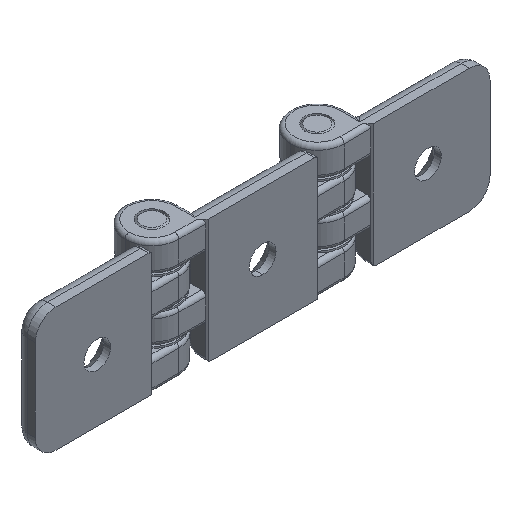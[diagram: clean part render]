
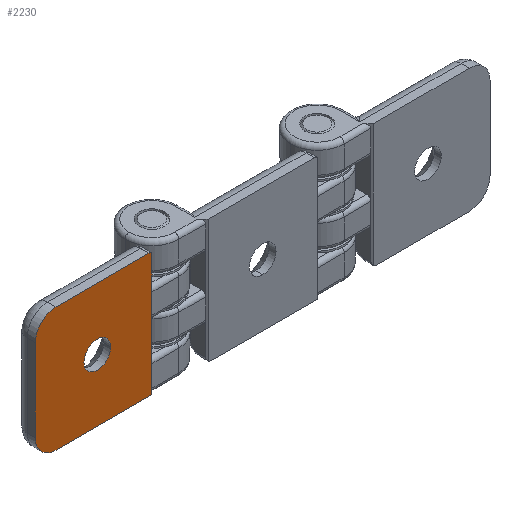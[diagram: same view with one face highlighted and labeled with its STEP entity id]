
A CAD part, isometric view. The second image highlights one B-rep face of the part: STEP entity #2230.
In plain terms, the highlighted planar face has unit normal (0, -1, 0).
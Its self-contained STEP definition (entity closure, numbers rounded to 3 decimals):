
#326 = CIRCLE ( 'NONE', #1090, 3.25 ) ;
#380 = LINE ( 'NONE', #899, #383 ) ;
#383 = VECTOR ( 'NONE', #900, 1000. ) ;
#384 = LINE ( 'NONE', #903, #387 ) ;
#387 = VECTOR ( 'NONE', #905, 1000. ) ;
#426 = LINE ( 'NONE', #975, #436 ) ;
#436 = VECTOR ( 'NONE', #976, 1000. ) ;
#440 = VECTOR ( 'NONE', #1334, 1000. ) ;
#445 = CIRCLE ( 'NONE', #1115, 5. ) ;
#446 = CIRCLE ( 'NONE', #1112, 3.25 ) ;
#447 = CIRCLE ( 'NONE', #1114, 5. ) ;
#448 = CIRCLE ( 'NONE', #1113, 1. ) ;
#449 = LINE ( 'NONE', #1333, #440 ) ;
#634 = CARTESIAN_POINT ( 'NONE',  ( 30., -6.8, 0. ) ) ;
#635 = CARTESIAN_POINT ( 'NONE',  ( 23.25, -6.8, 15. ) ) ;
#640 = CARTESIAN_POINT ( 'NONE',  ( 16.75, -6.8, 15. ) ) ;
#817 = CARTESIAN_POINT ( 'NONE',  ( 20., -6.8, 15. ) ) ;
#818 = DIRECTION ( 'NONE',  ( 0., -1., 0. ) ) ;
#819 = DIRECTION ( 'NONE',  ( 1., 0., 0. ) ) ;
#899 = CARTESIAN_POINT ( 'NONE',  ( 6.8, -6.8, 30. ) ) ;
#900 = DIRECTION ( 'NONE',  ( 1., 0., 0. ) ) ;
#903 = CARTESIAN_POINT ( 'NONE',  ( 6.8, -6.8, 0. ) ) ;
#905 = DIRECTION ( 'NONE',  ( 1., 0., 0. ) ) ;
#975 = CARTESIAN_POINT ( 'NONE',  ( 6.8, -6.8, 30. ) ) ;
#976 = DIRECTION ( 'NONE',  ( 0., 0., -1. ) ) ;
#1019 = CARTESIAN_POINT ( 'NONE',  ( 7.5, -6.8, 0. ) ) ;
#1033 = CARTESIAN_POINT ( 'NONE',  ( 6.8, -6.8, 30. ) ) ;
#1034 = CARTESIAN_POINT ( 'NONE',  ( 30., -6.8, 30. ) ) ;
#1055 = CARTESIAN_POINT ( 'NONE',  ( 35., -6.8, 25. ) ) ;
#1059 = CARTESIAN_POINT ( 'NONE',  ( 35., -6.8, 5. ) ) ;
#1061 = CARTESIAN_POINT ( 'NONE',  ( 6.8, -6.8, 0.286 ) ) ;
#1090 = AXIS2_PLACEMENT_3D ( 'NONE', #817, #818, #819 ) ;
#1112 = AXIS2_PLACEMENT_3D ( 'NONE', #1330, #1331, #1332 ) ;
#1113 = AXIS2_PLACEMENT_3D ( 'NONE', #1335, #1336, #1337 ) ;
#1114 = AXIS2_PLACEMENT_3D ( 'NONE', #1339, #1340, #1341 ) ;
#1115 = AXIS2_PLACEMENT_3D ( 'NONE', #1343, #1344, #1345 ) ;
#1330 = CARTESIAN_POINT ( 'NONE',  ( 20., -6.8, 15. ) ) ;
#1331 = DIRECTION ( 'NONE',  ( 0., -1., 0. ) ) ;
#1332 = DIRECTION ( 'NONE',  ( 1., 0., 0. ) ) ;
#1333 = CARTESIAN_POINT ( 'NONE',  ( 35., -6.8, 30. ) ) ;
#1334 = DIRECTION ( 'NONE',  ( 0., 0., -1. ) ) ;
#1335 = CARTESIAN_POINT ( 'NONE',  ( 7.5, -6.8, 1. ) ) ;
#1336 = DIRECTION ( 'NONE',  ( 0., -1., 0. ) ) ;
#1337 = DIRECTION ( 'NONE',  ( -1., 0., 0. ) ) ;
#1339 = CARTESIAN_POINT ( 'NONE',  ( 30., -6.8, 5. ) ) ;
#1340 = DIRECTION ( 'NONE',  ( 0., -1., 0. ) ) ;
#1341 = DIRECTION ( 'NONE',  ( -1., 0., 0. ) ) ;
#1343 = CARTESIAN_POINT ( 'NONE',  ( 30., -6.8, 25. ) ) ;
#1344 = DIRECTION ( 'NONE',  ( 0., -1., 0. ) ) ;
#1345 = DIRECTION ( 'NONE',  ( -1., 0., 0. ) ) ;
#1930 = EDGE_LOOP ( 'NONE', ( #3060, #3061, #3062, #3063, #3064, #3065, #3066 ) ) ;
#1975 = EDGE_LOOP ( 'NONE', ( #3058, #3059 ) ) ;
#2230 = ADVANCED_FACE ( 'NONE', ( #3709, #3711 ), #4004, .F. ) ;
#2751 = VERTEX_POINT ( 'NONE', #634 ) ;
#2752 = VERTEX_POINT ( 'NONE', #635 ) ;
#2757 = VERTEX_POINT ( 'NONE', #640 ) ;
#2821 = EDGE_CURVE ( 'NONE', #2757, #2752, #326, .T. ) ;
#2855 = EDGE_CURVE ( 'NONE', #2943, #2944, #380, .T. ) ;
#2857 = EDGE_CURVE ( 'NONE', #2929, #2751, #384, .T. ) ;
#2888 = EDGE_CURVE ( 'NONE', #2943, #2971, #426, .T. ) ;
#2929 = VERTEX_POINT ( 'NONE', #1019 ) ;
#2943 = VERTEX_POINT ( 'NONE', #1033 ) ;
#2944 = VERTEX_POINT ( 'NONE', #1034 ) ;
#2965 = VERTEX_POINT ( 'NONE', #1055 ) ;
#2969 = VERTEX_POINT ( 'NONE', #1059 ) ;
#2971 = VERTEX_POINT ( 'NONE', #1061 ) ;
#3058 = ORIENTED_EDGE ( 'NONE', *, *, #3475, .F. ) ;
#3059 = ORIENTED_EDGE ( 'NONE', *, *, #2821, .F. ) ;
#3060 = ORIENTED_EDGE ( 'NONE', *, *, #2888, .T. ) ;
#3061 = ORIENTED_EDGE ( 'NONE', *, *, #3476, .T. ) ;
#3062 = ORIENTED_EDGE ( 'NONE', *, *, #2857, .T. ) ;
#3063 = ORIENTED_EDGE ( 'NONE', *, *, #3477, .T. ) ;
#3064 = ORIENTED_EDGE ( 'NONE', *, *, #3478, .F. ) ;
#3065 = ORIENTED_EDGE ( 'NONE', *, *, #3479, .T. ) ;
#3066 = ORIENTED_EDGE ( 'NONE', *, *, #2855, .F. ) ;
#3475 = EDGE_CURVE ( 'NONE', #2752, #2757, #446, .T. ) ;
#3476 = EDGE_CURVE ( 'NONE', #2971, #2929, #448, .T. ) ;
#3477 = EDGE_CURVE ( 'NONE', #2751, #2969, #447, .T. ) ;
#3478 = EDGE_CURVE ( 'NONE', #2965, #2969, #449, .T. ) ;
#3479 = EDGE_CURVE ( 'NONE', #2965, #2944, #445, .T. ) ;
#3613 = AXIS2_PLACEMENT_3D ( 'NONE', #4002, #3999, #4006 ) ;
#3709 = FACE_BOUND ( 'NONE', #1975, .T. ) ;
#3711 = FACE_OUTER_BOUND ( 'NONE', #1930, .T. ) ;
#3999 = DIRECTION ( 'NONE',  ( 0., 1., 0. ) ) ;
#4002 = CARTESIAN_POINT ( 'NONE',  ( 6.8, -6.8, 30. ) ) ;
#4004 = PLANE ( 'NONE',  #3613 ) ;
#4006 = DIRECTION ( 'NONE',  ( -1., 0., 0. ) ) ;
